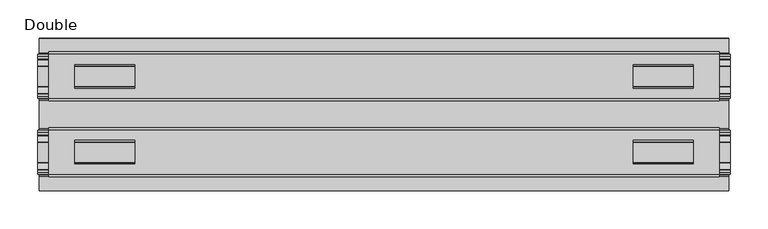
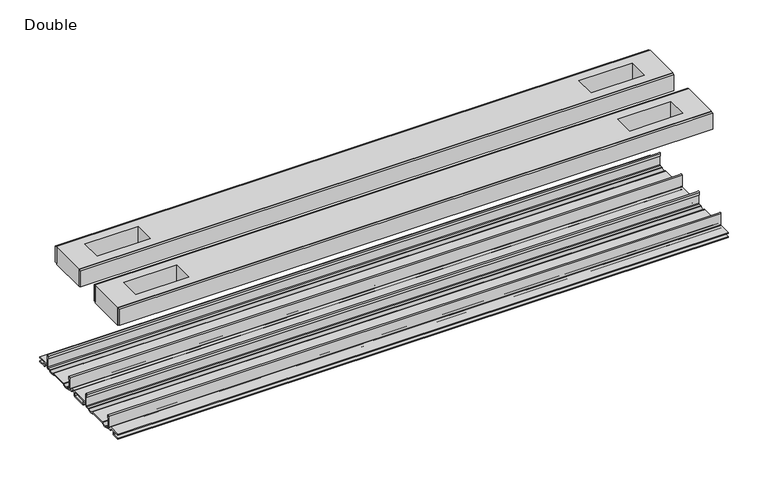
"""IFC4 building model written with IfcOpenShell, lengths in millimetres: proxy geometry, Frame-Teknion-FHCRA-Horizontal_Rail-R2022 : Double."""

from ifc_helpers import new_model, si_unit, point, frame, frame_2d, origin, place, context, project, spatial, polyline, circle_curve, trimmed, segment, composite_curve, outline, extrude, source, transform, mapped, element, save


def double_5125c6b6(model_context):
    return source(origin(), model_context, "Body", "SweptSolid", [
        extrude(outline(composite_curve([segment(trimmed(circle_curve(frame_2d((76.6483061, -7.7516037)), 2.17424), [point((78.8225461, -7.7516037))], [point((76.6483061, -9.9258438))], False, "CARTESIAN"), True, "CONTINUOUS"), segment(polyline([(76.6483061, -9.9258438), (72.3573194, -9.9258438)]), True, "CONTINUOUS"), segment(trimmed(circle_curve(frame_2d((67.7769049, -6.4800016)), 5.7318431), [point((72.3573194, -9.9258438))], [point((63.1964904, -9.9258438))], False, "CARTESIAN"), True, "CONTINUOUS"), segment(polyline([(63.1964904, -9.9258438), (36.43501, -9.9258438)]), True, "CONTINUOUS"), segment(trimmed(circle_curve(frame_2d((31.8545955, -6.4800016)), 5.7318431), [point((36.43501, -9.9258438))], [point((27.274181, -9.9258438))], False, "CARTESIAN"), True, "CONTINUOUS"), segment(polyline([(27.274181, -9.9258438), (22.9831943, -9.9258438)]), True, "CONTINUOUS"), segment(trimmed(circle_curve(frame_2d((22.9831943, -7.7516037)), 2.17424), [point((22.9831943, -9.9258438))], [point((20.8089542, -7.7516037))], False, "CARTESIAN"), True, "CONTINUOUS"), segment(polyline([(20.8089542, -7.7516037), (20.8089542, 9.8607558)]), True, "CONTINUOUS"), segment(trimmed(circle_curve(frame_2d((22.0281522, 9.8607558)), 1.2191979), [point((20.8089542, 9.8607558))], [point((23.2473501, 9.8607558))], False, "CARTESIAN"), True, "CONTINUOUS"), segment(polyline([(23.2473501, 9.8607558), (23.2473501, 5.9999563), (21.9671735, 5.9999563), (21.9671735, -7.7516037)]), True, "CONTINUOUS"), segment(trimmed(circle_curve(frame_2d((22.9831943, -7.7516037)), 1.0160208), [point((21.9671735, -7.7516037))], [point((22.9766772, -8.7676036))], True, "CARTESIAN"), True, "CONTINUOUS"), segment(polyline([(22.9766772, -8.7676036), (26.9196277, -8.7676036), (27.8329895, -8.968753)]), True, "CONTINUOUS"), segment(trimmed(circle_curve(frame_2d((31.8579482, -6.1259382)), 4.9276657), [point((27.8329895, -8.968753))], [point((35.8829069, -8.968753))], True, "CARTESIAN"), True, "CONTINUOUS"), segment(polyline([(35.8829069, -8.968753), (36.7962778, -8.7676036), (62.8352226, -8.7676036), (63.7485934, -8.968753)]), True, "CONTINUOUS"), segment(trimmed(circle_curve(frame_2d((67.7735521, -6.1259382)), 4.9276657), [point((63.7485934, -8.968753))], [point((71.7985108, -8.968753))], True, "CARTESIAN"), True, "CONTINUOUS"), segment(polyline([(71.7985108, -8.968753), (72.7118726, -8.7676036), (76.6548232, -8.7676036)]), True, "CONTINUOUS"), segment(trimmed(circle_curve(frame_2d((76.6483061, -7.7516037)), 1.0160208), [point((76.6548232, -8.7676036))], [point((77.6643269, -7.7516037))], True, "CARTESIAN"), True, "CONTINUOUS"), segment(polyline([(77.6643269, -7.7516037), (77.6643269, 5.9999563), (76.3841503, 5.9999563), (76.3841503, 9.8607558)]), True, "CONTINUOUS"), segment(trimmed(circle_curve(frame_2d((77.6033482, 9.8607558)), 1.2191979), [point((76.3841503, 9.8607558))], [point((78.8225461, 9.8607558))], False, "CARTESIAN"), True, "CONTINUOUS"), segment(polyline([(78.8225461, 9.8607558), (78.8225461, -7.7516037)]), True, "CONTINUOUS")], self_intersect=False)), frame((-455.3204, 0.0, 0.0), z_axis=(1.0, 0.0, 0.0), x_axis=(0.0, 1.0, 0.0)), (0.0, 0.0, 1.0), 910.6408),
        extrude(outline(composite_curve([segment(polyline([(-79.2035458, -7.7516037), (-79.2035458, 9.8607558)]), True, "CONTINUOUS"), segment(trimmed(circle_curve(frame_2d((-77.9843478, 9.8607558)), 1.2191979), [point((-79.2035458, 9.8607558))], [point((-76.7651499, 9.8607558))], False, "CARTESIAN"), True, "CONTINUOUS"), segment(polyline([(-76.7651499, 9.8607558), (-76.7651499, 5.9999563), (-78.0453265, 5.9999563), (-78.0453265, -7.7516037)]), True, "CONTINUOUS"), segment(trimmed(circle_curve(frame_2d((-77.0293057, -7.7516037)), 1.0160208), [point((-78.0453265, -7.7516037))], [point((-77.0358228, -8.7676036))], True, "CARTESIAN"), True, "CONTINUOUS"), segment(polyline([(-77.0358228, -8.7676036), (-73.0928723, -8.7676036), (-72.1795105, -8.968753)]), True, "CONTINUOUS"), segment(trimmed(circle_curve(frame_2d((-68.1545518, -6.1259382)), 4.9276657), [point((-72.1795105, -8.968753))], [point((-64.1295931, -8.968753))], True, "CARTESIAN"), True, "CONTINUOUS"), segment(polyline([(-64.1295931, -8.968753), (-63.2162222, -8.7676036), (-37.1772774, -8.7676036), (-36.2639066, -8.968753)]), True, "CONTINUOUS"), segment(trimmed(circle_curve(frame_2d((-32.2389479, -6.1259382)), 4.9276657), [point((-36.2639066, -8.968753))], [point((-28.2139892, -8.968753))], True, "CARTESIAN"), True, "CONTINUOUS"), segment(polyline([(-28.2139892, -8.968753), (-27.3006274, -8.7676036), (-23.3576768, -8.7676036)]), True, "CONTINUOUS"), segment(trimmed(circle_curve(frame_2d((-23.3641939, -7.7516037)), 1.0160208), [point((-23.3576768, -8.7676036))], [point((-22.3481731, -7.7516037))], True, "CARTESIAN"), True, "CONTINUOUS"), segment(polyline([(-22.3481731, -7.7516037), (-22.3481731, 5.9999563), (-23.6283497, 5.9999563), (-23.6283497, 9.8607558)]), True, "CONTINUOUS"), segment(trimmed(circle_curve(frame_2d((-22.4091518, 9.8607558)), 1.2191979), [point((-23.6283497, 9.8607558))], [point((-21.1899539, 9.8607558))], False, "CARTESIAN"), True, "CONTINUOUS"), segment(polyline([(-21.1899539, 9.8607558), (-21.1899539, -7.7516037)]), True, "CONTINUOUS"), segment(trimmed(circle_curve(frame_2d((-23.3641939, -7.7516037)), 2.17424), [point((-21.1899539, -7.7516037))], [point((-23.3641939, -9.9258438))], False, "CARTESIAN"), True, "CONTINUOUS"), segment(polyline([(-23.3641939, -9.9258438), (-27.6551806, -9.9258438)]), True, "CONTINUOUS"), segment(trimmed(circle_curve(frame_2d((-32.2355951, -6.4800016)), 5.7318431), [point((-27.6551806, -9.9258438))], [point((-36.8160096, -9.9258438))], False, "CARTESIAN"), True, "CONTINUOUS"), segment(polyline([(-36.8160096, -9.9258438), (-63.57749, -9.9258438)]), True, "CONTINUOUS"), segment(trimmed(circle_curve(frame_2d((-68.1579045, -6.4800016)), 5.7318431), [point((-63.57749, -9.9258438))], [point((-72.738319, -9.9258438))], False, "CARTESIAN"), True, "CONTINUOUS"), segment(polyline([(-72.738319, -9.9258438), (-77.0293057, -9.9258438)]), True, "CONTINUOUS"), segment(trimmed(circle_curve(frame_2d((-77.0293057, -7.7516037)), 2.17424), [point((-77.0293057, -9.9258438))], [point((-79.2035458, -7.7516037))], False, "CARTESIAN"), True, "CONTINUOUS")], self_intersect=False)), frame((-455.3204, 0.0, 0.0), z_axis=(1.0, 0.0, 0.0), x_axis=(0.0, 1.0, 0.0)), (0.0, 0.0, 1.0), 910.6408),
        extrude(outline(polyline([(441.2615091, 78.8225461), (-441.2615091, 78.8225461), (-441.2615091, 81.9975522), (441.2615091, 81.9975522), (441.2615091, 78.8225461)])), frame((0.0, 0.0, 149.8401622), z_axis=(0.0, 0.0, 1.0), x_axis=(1.0, 0.0, 0.0)), (0.0, 0.0, 1.0), 25.3999939),
        extrude(outline(polyline([(441.2615091, 17.6339482), (-441.2615091, 17.6339482), (-441.2615091, 20.8089542), (441.2615091, 20.8089542), (441.2615091, 17.6339482)])), frame((0.0, 0.0, 149.8401622), z_axis=(0.0, 0.0, 1.0), x_axis=(1.0, 0.0, 0.0)), (0.0, 0.0, 1.0), 25.3999939),
        extrude(outline(polyline([(441.2615091, -21.1899493), (-441.2615091, -21.1899493), (-441.2615091, -18.0149501), (441.2615091, -18.0149501), (441.2615091, -21.1899493)])), frame((0.0, 0.0, 149.8401622), z_axis=(0.0, 0.0, 1.0), x_axis=(1.0, 0.0, 0.0)), (0.0, 0.0, 1.0), 25.3999939),
        extrude(outline(polyline([(441.2615091, -82.3785496), (-441.2615091, -82.3785496), (-441.2615091, -79.2035503), (441.2615091, -79.2035503), (441.2615091, -82.3785496)])), frame((0.0, 0.0, 149.8401622), z_axis=(0.0, 0.0, 1.0), x_axis=(1.0, 0.0, 0.0)), (0.0, 0.0, 1.0), 25.3999939),
        extrude(outline(polyline([(441.2615091, -79.2035503), (-441.2615091, -79.2035503), (-441.2615091, -21.1899493), (441.2615091, -21.1899493), (441.2615091, -79.2035503)]), holes=[polyline([(406.8444965, -65.3097536), (406.8444965, -34.3217468), (327.7996847, -34.3217468), (327.7996847, -65.3097536), (406.8444965, -65.3097536)]), polyline([(-406.8444965, -65.3097536), (-327.7996847, -65.3097536), (-327.7996847, -34.3217468), (-406.8444965, -34.3217468), (-406.8444965, -65.3097536)])]), frame((0.0, 0.0, 148.4185847), z_axis=(0.0, 0.0, 1.0), x_axis=(1.0, 0.0, 0.0)), (0.0, 0.0, 1.0), 27.9999988),
        extrude(outline(polyline([(441.2615091, 78.8225461), (441.2615091, 20.8224524), (-441.2615091, 20.8224524), (-441.2615091, 78.8225461), (441.2615091, 78.8225461)]), holes=[polyline([(406.8444965, 65.3097536), (327.7996847, 65.3097536), (327.7996847, 34.3217468), (406.8444965, 34.3217468), (406.8444965, 65.3097536)]), polyline([(-406.8444965, 65.3097536), (-406.8444965, 34.3217468), (-327.7996847, 34.3217468), (-327.7996847, 65.3097536), (-406.8444965, 65.3097536)])]), frame((0.0, 0.0, 148.4185847), z_axis=(0.0, 0.0, 1.0), x_axis=(1.0, 0.0, 0.0)), (0.0, 0.0, 1.0), 27.9999988),
        extrude(outline(composite_curve([segment(polyline([(100.2730922, -13.9898438), (89.6620022, -13.9898438)]), True, "CONTINUOUS"), segment(trimmed(circle_curve(frame_2d((89.6620022, -12.4658438)), 1.524), [point((89.6620022, -13.9898438))], [point((88.1380022, -12.4658438))], False, "CARTESIAN"), True, "CONTINUOUS"), segment(polyline([(88.1380022, -12.4658438), (88.1380022, -7.766844), (81.3117474, -7.766844), (81.3117474, -10.0528438)]), True, "CONTINUOUS"), segment(trimmed(circle_curve(frame_2d((79.7877474, -10.0528438)), 1.524), [point((81.3117474, -10.0528438))], [point((79.7877474, -11.5768438))], False, "CARTESIAN"), True, "CONTINUOUS"), segment(polyline([(79.7877474, -11.5768438), (73.2816053, -11.5768438)]), True, "CONTINUOUS"), segment(trimmed(circle_curve(frame_2d((67.7735521, -6.4968436)), 7.4930002), [point((73.2816053, -11.5768438))], [point((62.5157472, -11.8354331))], False, "CARTESIAN"), True, "CONTINUOUS"), segment(polyline([(62.5157472, -11.8354331), (37.1157532, -11.8354331)]), True, "CONTINUOUS"), segment(trimmed(circle_curve(frame_2d((31.8579482, -6.4968436)), 7.4930002), [point((37.1157532, -11.8354331))], [point((26.3498951, -11.5768438))], False, "CARTESIAN"), True, "CONTINUOUS"), segment(polyline([(26.3498951, -11.5768438), (19.8437529, -11.5768438)]), True, "CONTINUOUS"), segment(trimmed(circle_curve(frame_2d((19.8437529, -10.0528438)), 1.524), [point((19.8437529, -11.5768438))], [point((18.319753, -10.0528438))], False, "CARTESIAN"), True, "CONTINUOUS"), segment(polyline([(18.319753, -10.0528438), (18.319753, -7.766844), (11.4934981, -7.766844), (11.4934981, -12.4658438)]), True, "CONTINUOUS"), segment(trimmed(circle_curve(frame_2d((9.9694982, -12.4658438)), 1.524), [point((11.4934981, -12.4658438))], [point((9.9694982, -13.9898438))], False, "CARTESIAN"), True, "CONTINUOUS"), segment(polyline([(9.9694982, -13.9898438), (-10.3504978, -13.9898438)]), True, "CONTINUOUS"), segment(trimmed(circle_curve(frame_2d((-10.3504978, -12.4658438)), 1.524), [point((-10.3504978, -13.9898438))], [point((-11.8744978, -12.4658438))], False, "CARTESIAN"), True, "CONTINUOUS"), segment(polyline([(-11.8744978, -12.4658438), (-11.8744978, -7.766844), (-18.7007526, -7.766844), (-18.7007526, -10.0528438)]), True, "CONTINUOUS"), segment(trimmed(circle_curve(frame_2d((-20.2247526, -10.0528438)), 1.524), [point((-18.7007526, -10.0528438))], [point((-20.2247526, -11.5768438))], False, "CARTESIAN"), True, "CONTINUOUS"), segment(polyline([(-20.2247526, -11.5768438), (-26.7308947, -11.5768438)]), True, "CONTINUOUS"), segment(trimmed(circle_curve(frame_2d((-32.2389479, -6.4968436)), 7.4930002), [point((-26.7308947, -11.5768438))], [point((-37.4967528, -11.8354331))], False, "CARTESIAN"), True, "CONTINUOUS"), segment(polyline([(-37.4967528, -11.8354331), (-62.8967468, -11.8354331)]), True, "CONTINUOUS"), segment(trimmed(circle_curve(frame_2d((-68.1545518, -6.4968436)), 7.4930002), [point((-62.8967468, -11.8354331))], [point((-73.6626049, -11.5768438))], False, "CARTESIAN"), True, "CONTINUOUS"), segment(polyline([(-73.6626049, -11.5768438), (-80.1687471, -11.5768438)]), True, "CONTINUOUS"), segment(trimmed(circle_curve(frame_2d((-80.1687471, -10.0528438)), 1.524), [point((-80.1687471, -11.5768438))], [point((-81.692747, -10.0528438))], False, "CARTESIAN"), True, "CONTINUOUS"), segment(polyline([(-81.692747, -10.0528438), (-81.692747, -7.766844), (-88.5190019, -7.766844), (-88.5190019, -12.4658438)]), True, "CONTINUOUS"), segment(trimmed(circle_curve(frame_2d((-90.0430018, -12.4658438)), 1.524), [point((-88.5190019, -12.4658438))], [point((-90.0430018, -13.9898438))], False, "CARTESIAN"), True, "CONTINUOUS"), segment(polyline([(-90.0430018, -13.9898438), (-100.6540918, -13.9898438), (-100.6112708, -12.3388438), (-90.1700003, -12.3388438), (-90.1700003, -7.766844), (-100.6112708, -7.766844), (-100.6540918, -6.1158439), (-81.6301718, -6.1158439)]), True, "CONTINUOUS"), segment(trimmed(circle_curve(frame_2d((-81.6927482, -7.7656583)), 1.6510007), [point((-81.6301718, -6.1158439))], [point((-80.0417475, -7.7656583))], False, "CARTESIAN"), True, "CONTINUOUS"), segment(polyline([(-80.0417475, -7.7656583), (-80.0417475, -9.9258438), (-73.493084, -9.9258438)]), True, "CONTINUOUS"), segment(trimmed(circle_curve(frame_2d((-68.1545518, -5.2268471)), 7.1119966), [point((-73.493084, -9.9258438))], [point((-62.8160195, -9.9258438))], True, "CARTESIAN"), True, "CONTINUOUS"), segment(polyline([(-62.8160195, -9.9258438), (-37.5774801, -9.9258438)]), True, "CONTINUOUS"), segment(trimmed(circle_curve(frame_2d((-32.2389479, -5.2268471)), 7.1119966), [point((-37.5774801, -9.9258438))], [point((-26.9004156, -9.9258438))], True, "CARTESIAN"), True, "CONTINUOUS"), segment(polyline([(-26.9004156, -9.9258438), (-20.3517522, -9.9258438), (-20.3517522, -7.7656583)]), True, "CONTINUOUS"), segment(trimmed(circle_curve(frame_2d((-18.7007515, -7.7656583)), 1.6510007), [point((-20.3517522, -7.7656583))], [point((-18.7633278, -6.1158439))], False, "CARTESIAN"), True, "CONTINUOUS"), segment(polyline([(-18.7633278, -6.1158439), (18.3823282, -6.1158439)]), True, "CONTINUOUS"), segment(trimmed(circle_curve(frame_2d((18.3197518, -7.7656583)), 1.6510007), [point((18.3823282, -6.1158439))], [point((19.9707525, -7.7656583))], False, "CARTESIAN"), True, "CONTINUOUS"), segment(polyline([(19.9707525, -7.7656583), (19.9707525, -9.9258438), (26.519416, -9.9258438)]), True, "CONTINUOUS"), segment(trimmed(circle_curve(frame_2d((31.8579482, -5.2268471)), 7.1119966), [point((26.519416, -9.9258438))], [point((37.1964805, -9.9258438))], True, "CARTESIAN"), True, "CONTINUOUS"), segment(polyline([(37.1964805, -9.9258438), (62.4350199, -9.9258438)]), True, "CONTINUOUS"), segment(trimmed(circle_curve(frame_2d((67.7735521, -5.2268471)), 7.1119966), [point((62.4350199, -9.9258438))], [point((73.1120844, -9.9258438))], True, "CARTESIAN"), True, "CONTINUOUS"), segment(polyline([(73.1120844, -9.9258438), (79.6607478, -9.9258438), (79.6607478, -7.6398436)]), True, "CONTINUOUS"), segment(trimmed(circle_curve(frame_2d((81.1847475, -7.6398436)), 1.5239997), [point((79.6607478, -7.6398436))], [point((81.1847475, -6.1158439))], False, "CARTESIAN"), True, "CONTINUOUS"), segment(polyline([(81.1847475, -6.1158439), (100.2730922, -6.1158439), (100.2302711, -7.766844), (89.7890007, -7.766844), (89.7890007, -12.3388438), (100.2302711, -12.3388438), (100.2730922, -13.9898438)]), True, "CONTINUOUS")], self_intersect=False), holes=[polyline([(9.8424997, -12.3388438), (9.8424997, -7.766844), (-10.2234993, -7.766844), (-10.2234993, -12.3388438), (9.8424997, -12.3388438)])]), frame((-453.6694, 0.0, 0.0), z_axis=(1.0, 0.0, 0.0), x_axis=(0.0, 1.0, 0.0)), (0.0, 0.0, 1.0), 907.3388),
    ])


if __name__ == "__main__":
    model = new_model("IFC4")
    model_context = context("Model", 3, world=origin())
    ifc_project = project(units=[si_unit("LENGTHUNIT", "METRE", prefix="MILLI")], contexts=[model_context])
    site = spatial("IfcSite", under=ifc_project)
    building = spatial("IfcBuilding", under=site)
    placement = place(None, origin())
    double_shape = double_5125c6b6(model_context)
    element("IfcBuildingElementProxy", 1, Name="Frame-Teknion-FHCRA-Horizontal_Rail-R2022 : Double", ObjectType="Frame-Teknion-FHCRA-Horizontal_Rail-R2022 : Double", at=placement, inside=building, context=model_context, shape_type="MappedRepresentation", body=[
        mapped(double_shape, transform((0.0, 0.0, 0.0), x_axis=(1.0, 0.0, 0.0), y_axis=(0.0, 1.0, 0.0), z_axis=(0.0, 0.0, 1.0))),
    ])
    save(model, "model.ifc")
